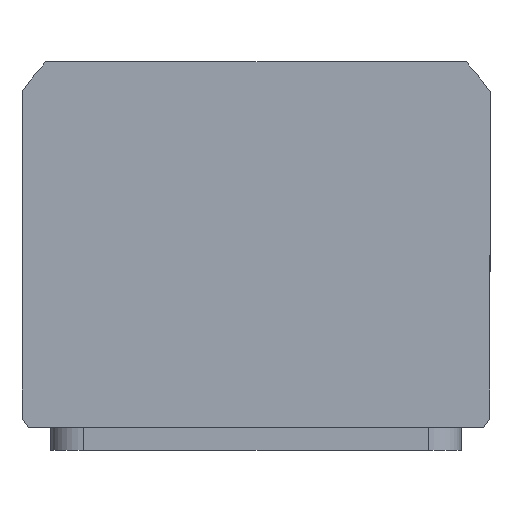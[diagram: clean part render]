
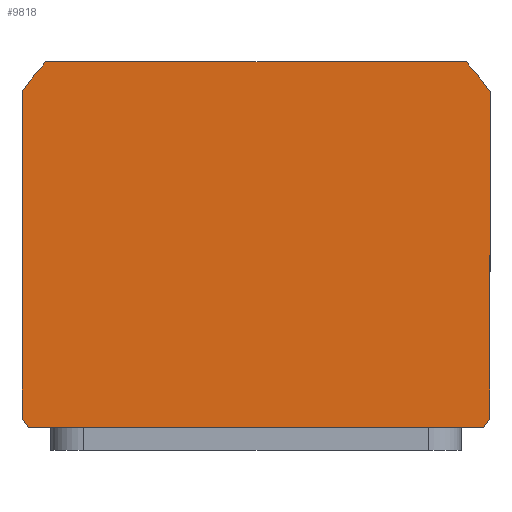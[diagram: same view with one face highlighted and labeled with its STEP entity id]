
A CAD part, top view. The second image highlights one B-rep face of the part: STEP entity #9818.
In plain terms, the highlighted planar face has unit normal (0, 0, 1) as drawn and (0, 0, -1) by its records, which use the part's own axes.
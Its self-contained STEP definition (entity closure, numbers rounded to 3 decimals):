
#708 = CIRCLE ( 'NONE', #21414, 69.5 ) ;
#769 = CARTESIAN_POINT ( 'NONE',  ( -57., 44.5, 0. ) ) ;
#774 = VECTOR ( 'NONE', #13825, 1000. ) ;
#1540 = VERTEX_POINT ( 'NONE', #11688 ) ;
#2427 = CIRCLE ( 'NONE', #13431, 69.5 ) ;
#2793 = ORIENTED_EDGE ( 'NONE', *, *, #11672, .F. ) ;
#3065 = CARTESIAN_POINT ( 'NONE',  ( 0., 2.51, 0. ) ) ;
#3088 = PLANE ( 'NONE',  #4508 ) ;
#3212 = VERTEX_POINT ( 'NONE', #21246 ) ;
#3396 = EDGE_CURVE ( 'NONE', #7166, #15849, #708, .T. ) ;
#3921 = DIRECTION ( 'NONE',  ( 0., 0., 1. ) ) ;
#4101 = VERTEX_POINT ( 'NONE', #13631 ) ;
#4508 = AXIS2_PLACEMENT_3D ( 'NONE', #10123, #15480, #4862 ) ;
#4559 = VECTOR ( 'NONE', #17963, 1000. ) ;
#4838 = DIRECTION ( 'NONE',  ( 1., 0., 0. ) ) ;
#4862 = DIRECTION ( 'NONE',  ( 1., 0., 0. ) ) ;
#5086 = DIRECTION ( 'NONE',  ( 0., 0., 1. ) ) ;
#5139 = VERTEX_POINT ( 'NONE', #5917 ) ;
#5169 = EDGE_CURVE ( 'NONE', #3212, #4101, #10725, .T. ) ;
#5917 = CARTESIAN_POINT ( 'NONE',  ( -51.189, -44.5, 0. ) ) ;
#6005 = VECTOR ( 'NONE', #7772, 1000. ) ;
#6654 = LINE ( 'NONE', #12037, #774 ) ;
#7166 = VERTEX_POINT ( 'NONE', #16800 ) ;
#7368 = CARTESIAN_POINT ( 'NONE',  ( 57., 44.5, 0. ) ) ;
#7454 = CARTESIAN_POINT ( 'NONE',  ( 57., 42.275, 0. ) ) ;
#7474 = ORIENTED_EDGE ( 'NONE', *, *, #5169, .F. ) ;
#7749 = FACE_OUTER_BOUND ( 'NONE', #21107, .T. ) ;
#7772 = DIRECTION ( 'NONE',  ( 0., -1., 0. ) ) ;
#7821 = EDGE_CURVE ( 'NONE', #12117, #13355, #9839, .T. ) ;
#7918 = DIRECTION ( 'NONE',  ( -1., 0., 0. ) ) ;
#8140 = DIRECTION ( 'NONE',  ( 0., 0., 1. ) ) ;
#8480 = EDGE_CURVE ( 'NONE', #13355, #1540, #14284, .T. ) ;
#9547 = VECTOR ( 'NONE', #7918, 1000. ) ;
#9735 = ORIENTED_EDGE ( 'NONE', *, *, #7821, .F. ) ;
#9765 = ORIENTED_EDGE ( 'NONE', *, *, #19098, .F. ) ;
#9818 = ADVANCED_FACE ( 'NONE', ( #7749 ), #3088, .F. ) ;
#9839 = CIRCLE ( 'NONE', #14797, 69.5 ) ;
#9920 = ORIENTED_EDGE ( 'NONE', *, *, #12740, .F. ) ;
#10123 = CARTESIAN_POINT ( 'NONE',  ( 0., 0., 0. ) ) ;
#10725 = LINE ( 'NONE', #16601, #6005 ) ;
#11672 = EDGE_CURVE ( 'NONE', #5139, #7166, #6654, .T. ) ;
#11688 = CARTESIAN_POINT ( 'NONE',  ( -55.382, 44.5, 0. ) ) ;
#11782 = ORIENTED_EDGE ( 'NONE', *, *, #8480, .F. ) ;
#12037 = CARTESIAN_POINT ( 'NONE',  ( -57., -44.5, 0. ) ) ;
#12117 = VERTEX_POINT ( 'NONE', #7454 ) ;
#12740 = EDGE_CURVE ( 'NONE', #1540, #3212, #2427, .T. ) ;
#12856 = ORIENTED_EDGE ( 'NONE', *, *, #20721, .F. ) ;
#13355 = VERTEX_POINT ( 'NONE', #17744 ) ;
#13431 = AXIS2_PLACEMENT_3D ( 'NONE', #15703, #5086, #17471 ) ;
#13631 = CARTESIAN_POINT ( 'NONE',  ( -57., -37.255, 0. ) ) ;
#13825 = DIRECTION ( 'NONE',  ( 1., 0., 0. ) ) ;
#13998 = LINE ( 'NONE', #7368, #4559 ) ;
#14284 = LINE ( 'NONE', #769, #9547 ) ;
#14531 = CARTESIAN_POINT ( 'NONE',  ( 0., 2.51, 0. ) ) ;
#14797 = AXIS2_PLACEMENT_3D ( 'NONE', #3065, #15461, #4838 ) ;
#15461 = DIRECTION ( 'NONE',  ( 0., 0., 1. ) ) ;
#15480 = DIRECTION ( 'NONE',  ( 0., 0., 1. ) ) ;
#15703 = CARTESIAN_POINT ( 'NONE',  ( 0., 2.51, 0. ) ) ;
#15849 = VERTEX_POINT ( 'NONE', #15916 ) ;
#15916 = CARTESIAN_POINT ( 'NONE',  ( 57., -37.255, 0. ) ) ;
#16326 = DIRECTION ( 'NONE',  ( 1., 0., 0. ) ) ;
#16601 = CARTESIAN_POINT ( 'NONE',  ( -57., 44.5, 0. ) ) ;
#16800 = CARTESIAN_POINT ( 'NONE',  ( 51.189, -44.5, 0. ) ) ;
#17035 = AXIS2_PLACEMENT_3D ( 'NONE', #18725, #8140, #20488 ) ;
#17471 = DIRECTION ( 'NONE',  ( 1., 0., 0. ) ) ;
#17744 = CARTESIAN_POINT ( 'NONE',  ( 55.382, 44.5, 0. ) ) ;
#17963 = DIRECTION ( 'NONE',  ( 0., 1., 0. ) ) ;
#18725 = CARTESIAN_POINT ( 'NONE',  ( 0., 2.51, 0. ) ) ;
#18885 = CIRCLE ( 'NONE', #17035, 69.5 ) ;
#19098 = EDGE_CURVE ( 'NONE', #15849, #12117, #13998, .T. ) ;
#20488 = DIRECTION ( 'NONE',  ( 1., 0., 0. ) ) ;
#20721 = EDGE_CURVE ( 'NONE', #4101, #5139, #18885, .T. ) ;
#21107 = EDGE_LOOP ( 'NONE', ( #9735, #9765, #22063, #2793, #12856, #7474, #9920, #11782 ) ) ;
#21246 = CARTESIAN_POINT ( 'NONE',  ( -57., 42.275, 0. ) ) ;
#21414 = AXIS2_PLACEMENT_3D ( 'NONE', #14531, #3921, #16326 ) ;
#22063 = ORIENTED_EDGE ( 'NONE', *, *, #3396, .F. ) ;
